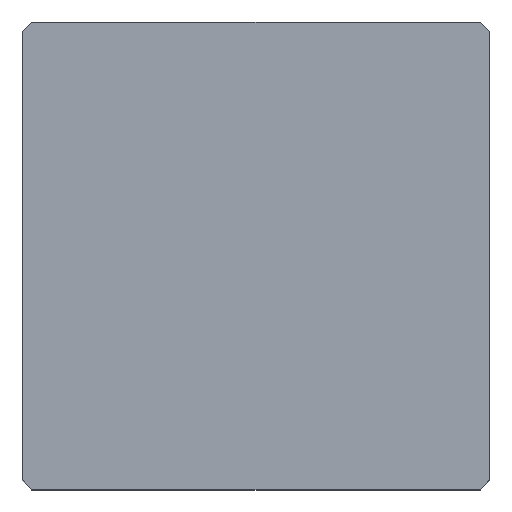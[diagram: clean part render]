
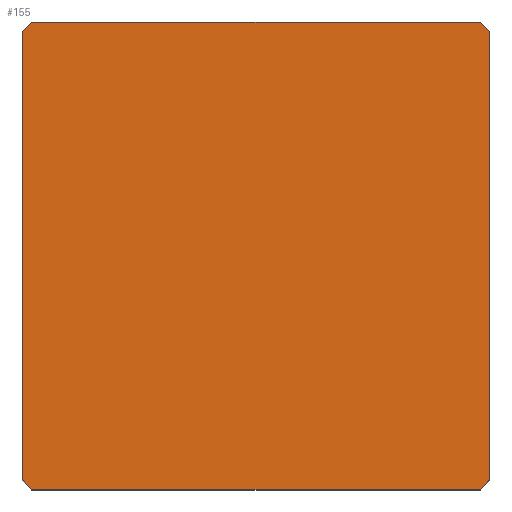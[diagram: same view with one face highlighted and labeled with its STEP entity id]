
A CAD part, top view. The second image highlights one B-rep face of the part: STEP entity #155.
In plain terms, the highlighted planar face has unit normal (0, 0, 1).
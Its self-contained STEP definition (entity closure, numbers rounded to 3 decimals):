
#39 = EDGE_CURVE('',#40,#42,#44,.T.);
#40 = VERTEX_POINT('',#41);
#41 = CARTESIAN_POINT('',(-10.,-9.6,18.75));
#42 = VERTEX_POINT('',#43);
#43 = CARTESIAN_POINT('',(-10.,9.6,18.75));
#44 = SURFACE_CURVE('',#45,(#49,#61),.PCURVE_S1.);
#45 = LINE('',#46,#47);
#46 = CARTESIAN_POINT('',(-10.,-10.,18.75));
#47 = VECTOR('',#48,1.);
#48 = DIRECTION('',(-0.,1.,0.));
#49 = PCURVE('',#50,#55);
#50 = PLANE('',#51);
#51 = AXIS2_PLACEMENT_3D('',#52,#53,#54);
#52 = CARTESIAN_POINT('',(-10.,-10.,0.));
#53 = DIRECTION('',(1.,0.,-0.));
#54 = DIRECTION('',(0.,0.,1.));
#55 = DEFINITIONAL_REPRESENTATION('',(#56),#60);
#56 = LINE('',#57,#58);
#57 = CARTESIAN_POINT('',(18.75,0.));
#58 = VECTOR('',#59,1.);
#59 = DIRECTION('',(0.,-1.));
#60 = ( GEOMETRIC_REPRESENTATION_CONTEXT(2) 
PARAMETRIC_REPRESENTATION_CONTEXT() REPRESENTATION_CONTEXT('2D SPACE',''
  ) );
#61 = PCURVE('',#62,#67);
#62 = PLANE('',#63);
#63 = AXIS2_PLACEMENT_3D('',#64,#65,#66);
#64 = CARTESIAN_POINT('',(-10.,-10.,18.75));
#65 = DIRECTION('',(0.,0.,1.));
#66 = DIRECTION('',(1.,0.,-0.));
#67 = DEFINITIONAL_REPRESENTATION('',(#68),#72);
#68 = LINE('',#69,#70);
#69 = CARTESIAN_POINT('',(0.,0.));
#70 = VECTOR('',#71,1.);
#71 = DIRECTION('',(0.,1.));
#72 = ( GEOMETRIC_REPRESENTATION_CONTEXT(2) 
PARAMETRIC_REPRESENTATION_CONTEXT() REPRESENTATION_CONTEXT('2D SPACE',''
  ) );
#90 = PLANE('',#91);
#91 = AXIS2_PLACEMENT_3D('',#92,#93,#94);
#92 = CARTESIAN_POINT('',(-9.8,-9.8,0.));
#93 = DIRECTION('',(-0.707,-0.707,0.));
#94 = DIRECTION('',(-0.,-0.,-1.));
#144 = PLANE('',#145);
#145 = AXIS2_PLACEMENT_3D('',#146,#147,#148);
#146 = CARTESIAN_POINT('',(-9.8,9.8,0.));
#147 = DIRECTION('',(0.707,-0.707,0.));
#148 = DIRECTION('',(-0.,-0.,-1.));
#155 = ADVANCED_FACE('',(#156),#62,.T.);
#156 = FACE_BOUND('',#157,.T.);
#157 = EDGE_LOOP('',(#158,#159,#182,#210,#238,#266,#294,#322));
#158 = ORIENTED_EDGE('',*,*,#39,.F.);
#159 = ORIENTED_EDGE('',*,*,#160,.T.);
#160 = EDGE_CURVE('',#40,#161,#163,.T.);
#161 = VERTEX_POINT('',#162);
#162 = CARTESIAN_POINT('',(-9.6,-10.,18.75));
#163 = SURFACE_CURVE('',#164,(#168,#175),.PCURVE_S1.);
#164 = LINE('',#165,#166);
#165 = CARTESIAN_POINT('',(-9.8,-9.8,18.75));
#166 = VECTOR('',#167,1.);
#167 = DIRECTION('',(0.707,-0.707,0.));
#168 = PCURVE('',#62,#169);
#169 = DEFINITIONAL_REPRESENTATION('',(#170),#174);
#170 = LINE('',#171,#172);
#171 = CARTESIAN_POINT('',(0.2,0.2));
#172 = VECTOR('',#173,1.);
#173 = DIRECTION('',(0.707,-0.707));
#174 = ( GEOMETRIC_REPRESENTATION_CONTEXT(2) 
PARAMETRIC_REPRESENTATION_CONTEXT() REPRESENTATION_CONTEXT('2D SPACE',''
  ) );
#175 = PCURVE('',#90,#176);
#176 = DEFINITIONAL_REPRESENTATION('',(#177),#181);
#177 = LINE('',#178,#179);
#178 = CARTESIAN_POINT('',(-18.75,0.));
#179 = VECTOR('',#180,1.);
#180 = DIRECTION('',(-0.,1.));
#181 = ( GEOMETRIC_REPRESENTATION_CONTEXT(2) 
PARAMETRIC_REPRESENTATION_CONTEXT() REPRESENTATION_CONTEXT('2D SPACE',''
  ) );
#182 = ORIENTED_EDGE('',*,*,#183,.T.);
#183 = EDGE_CURVE('',#161,#184,#186,.T.);
#184 = VERTEX_POINT('',#185);
#185 = CARTESIAN_POINT('',(9.6,-10.,18.75));
#186 = SURFACE_CURVE('',#187,(#191,#198),.PCURVE_S1.);
#187 = LINE('',#188,#189);
#188 = CARTESIAN_POINT('',(-10.,-10.,18.75));
#189 = VECTOR('',#190,1.);
#190 = DIRECTION('',(1.,0.,-0.));
#191 = PCURVE('',#62,#192);
#192 = DEFINITIONAL_REPRESENTATION('',(#193),#197);
#193 = LINE('',#194,#195);
#194 = CARTESIAN_POINT('',(0.,0.));
#195 = VECTOR('',#196,1.);
#196 = DIRECTION('',(1.,0.));
#197 = ( GEOMETRIC_REPRESENTATION_CONTEXT(2) 
PARAMETRIC_REPRESENTATION_CONTEXT() REPRESENTATION_CONTEXT('2D SPACE',''
  ) );
#198 = PCURVE('',#199,#204);
#199 = PLANE('',#200);
#200 = AXIS2_PLACEMENT_3D('',#201,#202,#203);
#201 = CARTESIAN_POINT('',(-10.,-10.,0.));
#202 = DIRECTION('',(-0.,1.,0.));
#203 = DIRECTION('',(0.,0.,1.));
#204 = DEFINITIONAL_REPRESENTATION('',(#205),#209);
#205 = LINE('',#206,#207);
#206 = CARTESIAN_POINT('',(18.75,0.));
#207 = VECTOR('',#208,1.);
#208 = DIRECTION('',(0.,1.));
#209 = ( GEOMETRIC_REPRESENTATION_CONTEXT(2) 
PARAMETRIC_REPRESENTATION_CONTEXT() REPRESENTATION_CONTEXT('2D SPACE',''
  ) );
#210 = ORIENTED_EDGE('',*,*,#211,.F.);
#211 = EDGE_CURVE('',#212,#184,#214,.T.);
#212 = VERTEX_POINT('',#213);
#213 = CARTESIAN_POINT('',(10.,-9.6,18.75));
#214 = SURFACE_CURVE('',#215,(#219,#226),.PCURVE_S1.);
#215 = LINE('',#216,#217);
#216 = CARTESIAN_POINT('',(4.8,-14.8,18.75));
#217 = VECTOR('',#218,1.);
#218 = DIRECTION('',(-0.707,-0.707,0.));
#219 = PCURVE('',#62,#220);
#220 = DEFINITIONAL_REPRESENTATION('',(#221),#225);
#221 = LINE('',#222,#223);
#222 = CARTESIAN_POINT('',(14.8,-4.8));
#223 = VECTOR('',#224,1.);
#224 = DIRECTION('',(-0.707,-0.707));
#225 = ( GEOMETRIC_REPRESENTATION_CONTEXT(2) 
PARAMETRIC_REPRESENTATION_CONTEXT() REPRESENTATION_CONTEXT('2D SPACE',''
  ) );
#226 = PCURVE('',#227,#232);
#227 = PLANE('',#228);
#228 = AXIS2_PLACEMENT_3D('',#229,#230,#231);
#229 = CARTESIAN_POINT('',(9.8,-9.8,0.));
#230 = DIRECTION('',(-0.707,0.707,0.));
#231 = DIRECTION('',(-0.,-0.,-1.));
#232 = DEFINITIONAL_REPRESENTATION('',(#233),#237);
#233 = LINE('',#234,#235);
#234 = CARTESIAN_POINT('',(-18.75,7.071));
#235 = VECTOR('',#236,1.);
#236 = DIRECTION('',(-0.,1.));
#237 = ( GEOMETRIC_REPRESENTATION_CONTEXT(2) 
PARAMETRIC_REPRESENTATION_CONTEXT() REPRESENTATION_CONTEXT('2D SPACE',''
  ) );
#238 = ORIENTED_EDGE('',*,*,#239,.T.);
#239 = EDGE_CURVE('',#212,#240,#242,.T.);
#240 = VERTEX_POINT('',#241);
#241 = CARTESIAN_POINT('',(10.,9.6,18.75));
#242 = SURFACE_CURVE('',#243,(#247,#254),.PCURVE_S1.);
#243 = LINE('',#244,#245);
#244 = CARTESIAN_POINT('',(10.,-10.,18.75));
#245 = VECTOR('',#246,1.);
#246 = DIRECTION('',(-0.,1.,0.));
#247 = PCURVE('',#62,#248);
#248 = DEFINITIONAL_REPRESENTATION('',(#249),#253);
#249 = LINE('',#250,#251);
#250 = CARTESIAN_POINT('',(20.,0.));
#251 = VECTOR('',#252,1.);
#252 = DIRECTION('',(0.,1.));
#253 = ( GEOMETRIC_REPRESENTATION_CONTEXT(2) 
PARAMETRIC_REPRESENTATION_CONTEXT() REPRESENTATION_CONTEXT('2D SPACE',''
  ) );
#254 = PCURVE('',#255,#260);
#255 = PLANE('',#256);
#256 = AXIS2_PLACEMENT_3D('',#257,#258,#259);
#257 = CARTESIAN_POINT('',(10.,-10.,0.));
#258 = DIRECTION('',(1.,0.,-0.));
#259 = DIRECTION('',(0.,0.,1.));
#260 = DEFINITIONAL_REPRESENTATION('',(#261),#265);
#261 = LINE('',#262,#263);
#262 = CARTESIAN_POINT('',(18.75,0.));
#263 = VECTOR('',#264,1.);
#264 = DIRECTION('',(0.,-1.));
#265 = ( GEOMETRIC_REPRESENTATION_CONTEXT(2) 
PARAMETRIC_REPRESENTATION_CONTEXT() REPRESENTATION_CONTEXT('2D SPACE',''
  ) );
#266 = ORIENTED_EDGE('',*,*,#267,.T.);
#267 = EDGE_CURVE('',#240,#268,#270,.T.);
#268 = VERTEX_POINT('',#269);
#269 = CARTESIAN_POINT('',(9.6,10.,18.75));
#270 = SURFACE_CURVE('',#271,(#275,#282),.PCURVE_S1.);
#271 = LINE('',#272,#273);
#272 = CARTESIAN_POINT('',(9.8,9.8,18.75));
#273 = VECTOR('',#274,1.);
#274 = DIRECTION('',(-0.707,0.707,0.));
#275 = PCURVE('',#62,#276);
#276 = DEFINITIONAL_REPRESENTATION('',(#277),#281);
#277 = LINE('',#278,#279);
#278 = CARTESIAN_POINT('',(19.8,19.8));
#279 = VECTOR('',#280,1.);
#280 = DIRECTION('',(-0.707,0.707));
#281 = ( GEOMETRIC_REPRESENTATION_CONTEXT(2) 
PARAMETRIC_REPRESENTATION_CONTEXT() REPRESENTATION_CONTEXT('2D SPACE',''
  ) );
#282 = PCURVE('',#283,#288);
#283 = PLANE('',#284);
#284 = AXIS2_PLACEMENT_3D('',#285,#286,#287);
#285 = CARTESIAN_POINT('',(9.8,9.8,0.));
#286 = DIRECTION('',(0.707,0.707,0.));
#287 = DIRECTION('',(-0.,0.,-1.));
#288 = DEFINITIONAL_REPRESENTATION('',(#289),#293);
#289 = LINE('',#290,#291);
#290 = CARTESIAN_POINT('',(-18.75,0.));
#291 = VECTOR('',#292,1.);
#292 = DIRECTION('',(-0.,1.));
#293 = ( GEOMETRIC_REPRESENTATION_CONTEXT(2) 
PARAMETRIC_REPRESENTATION_CONTEXT() REPRESENTATION_CONTEXT('2D SPACE',''
  ) );
#294 = ORIENTED_EDGE('',*,*,#295,.F.);
#295 = EDGE_CURVE('',#296,#268,#298,.T.);
#296 = VERTEX_POINT('',#297);
#297 = CARTESIAN_POINT('',(-9.6,10.,18.75));
#298 = SURFACE_CURVE('',#299,(#303,#310),.PCURVE_S1.);
#299 = LINE('',#300,#301);
#300 = CARTESIAN_POINT('',(-10.,10.,18.75));
#301 = VECTOR('',#302,1.);
#302 = DIRECTION('',(1.,0.,-0.));
#303 = PCURVE('',#62,#304);
#304 = DEFINITIONAL_REPRESENTATION('',(#305),#309);
#305 = LINE('',#306,#307);
#306 = CARTESIAN_POINT('',(0.,20.));
#307 = VECTOR('',#308,1.);
#308 = DIRECTION('',(1.,0.));
#309 = ( GEOMETRIC_REPRESENTATION_CONTEXT(2) 
PARAMETRIC_REPRESENTATION_CONTEXT() REPRESENTATION_CONTEXT('2D SPACE',''
  ) );
#310 = PCURVE('',#311,#316);
#311 = PLANE('',#312);
#312 = AXIS2_PLACEMENT_3D('',#313,#314,#315);
#313 = CARTESIAN_POINT('',(-10.,10.,0.));
#314 = DIRECTION('',(-0.,1.,0.));
#315 = DIRECTION('',(0.,0.,1.));
#316 = DEFINITIONAL_REPRESENTATION('',(#317),#321);
#317 = LINE('',#318,#319);
#318 = CARTESIAN_POINT('',(18.75,0.));
#319 = VECTOR('',#320,1.);
#320 = DIRECTION('',(0.,1.));
#321 = ( GEOMETRIC_REPRESENTATION_CONTEXT(2) 
PARAMETRIC_REPRESENTATION_CONTEXT() REPRESENTATION_CONTEXT('2D SPACE',''
  ) );
#322 = ORIENTED_EDGE('',*,*,#323,.F.);
#323 = EDGE_CURVE('',#42,#296,#324,.T.);
#324 = SURFACE_CURVE('',#325,(#329,#336),.PCURVE_S1.);
#325 = LINE('',#326,#327);
#326 = CARTESIAN_POINT('',(-14.8,4.8,18.75));
#327 = VECTOR('',#328,1.);
#328 = DIRECTION('',(0.707,0.707,-0.));
#329 = PCURVE('',#62,#330);
#330 = DEFINITIONAL_REPRESENTATION('',(#331),#335);
#331 = LINE('',#332,#333);
#332 = CARTESIAN_POINT('',(-4.8,14.8));
#333 = VECTOR('',#334,1.);
#334 = DIRECTION('',(0.707,0.707));
#335 = ( GEOMETRIC_REPRESENTATION_CONTEXT(2) 
PARAMETRIC_REPRESENTATION_CONTEXT() REPRESENTATION_CONTEXT('2D SPACE',''
  ) );
#336 = PCURVE('',#144,#337);
#337 = DEFINITIONAL_REPRESENTATION('',(#338),#342);
#338 = LINE('',#339,#340);
#339 = CARTESIAN_POINT('',(-18.75,-7.071));
#340 = VECTOR('',#341,1.);
#341 = DIRECTION('',(-0.,1.));
#342 = ( GEOMETRIC_REPRESENTATION_CONTEXT(2) 
PARAMETRIC_REPRESENTATION_CONTEXT() REPRESENTATION_CONTEXT('2D SPACE',''
  ) );
